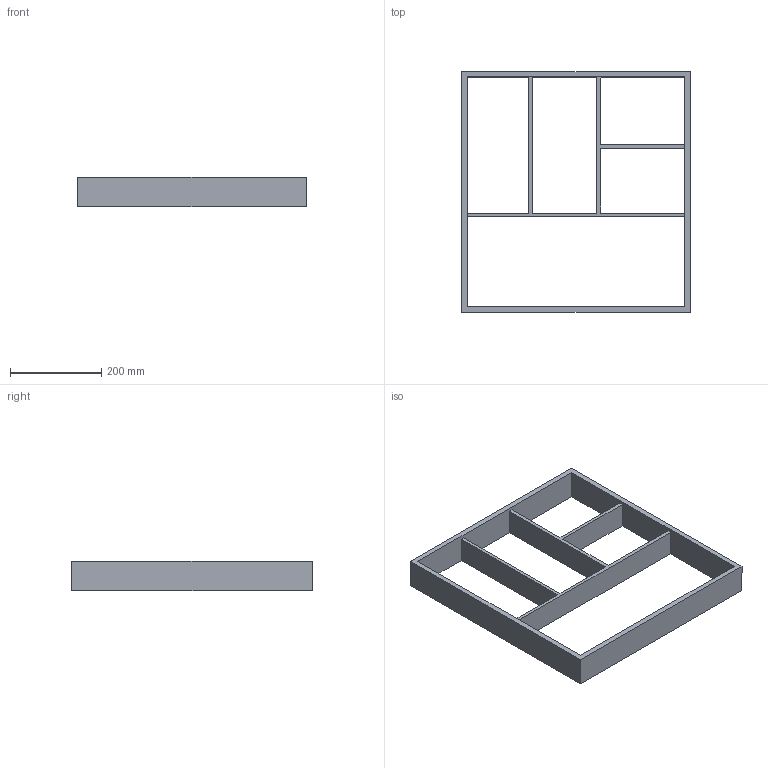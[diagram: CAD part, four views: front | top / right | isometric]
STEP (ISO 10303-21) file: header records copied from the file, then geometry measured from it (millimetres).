
FILE_DESCRIPTION (( 'STEP AP214' ), '1' );
FILE_NAME ('Vario Multi NL550_B600_19 mm_Alu.step', '2010-10-07T06:24:34', ( 'grass' ), ( '' ), 'SwSTEP 2.0', 'SolidWorks 2010', '' );
FILE_SCHEMA (( 'AUTOMOTIVE_DESIGN' ));
Length unit declared in the file: millimetre
Products named in the file (1): Vario Multi NL550_B600_19 mm_Alu
Bounding box: 502 x 529 x 65 mm (x, y, z)
Volume: 2145753.6 mm3; surface area: 470386 mm2
Topology: 1 solids, 1 shells, 22 faces, 72 edges, 48 vertices
Faces by surface type: plane 22
Entity records: 830 total; most frequent: ORIENTED_EDGE 144, CARTESIAN_POINT 143, DIRECTION 118, EDGE_CURVE 72, VECTOR 72, LINE 72, VERTEX_POINT 48, EDGE_LOOP 28
